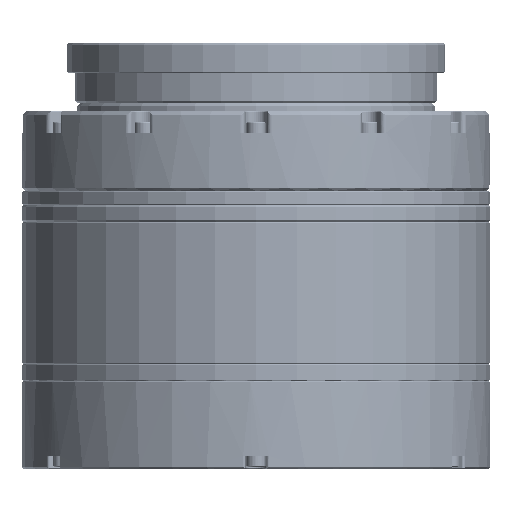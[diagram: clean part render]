
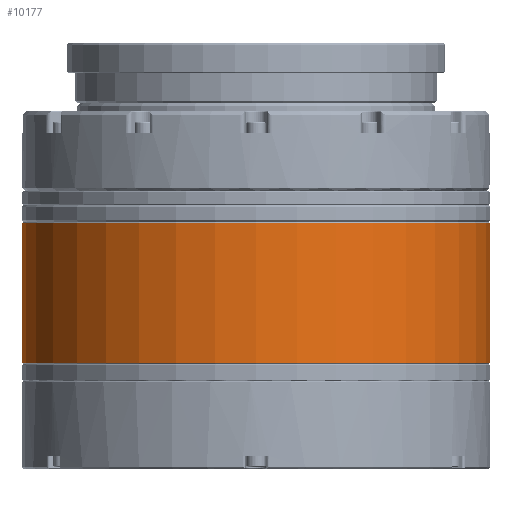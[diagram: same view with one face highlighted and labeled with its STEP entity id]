
A CAD part, front view. The second image highlights one B-rep face of the part: STEP entity #10177.
In plain terms, the highlighted cylindrical face has radius 55 mm (diameter 110 mm), a full revolution.
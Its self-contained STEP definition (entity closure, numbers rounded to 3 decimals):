
#7758=CYLINDRICAL_SURFACE('',#41553,55.);
#10177=ADVANCED_FACE('',(#13825,#13826),#7758,.T.);
#13825=FACE_BOUND('',#17722,.T.);
#13826=FACE_BOUND('',#17723,.T.);
#17722=EDGE_LOOP('',(#26100));
#17723=EDGE_LOOP('',(#26101));
#26100=ORIENTED_EDGE('',*,*,#34158,.T.);
#26101=ORIENTED_EDGE('',*,*,#34159,.T.);
#29819=VERTEX_POINT('',#66287);
#29820=VERTEX_POINT('',#66289);
#34158=EDGE_CURVE('',#29819,#29819,#36741,.T.);
#34159=EDGE_CURVE('',#29820,#29820,#36742,.T.);
#36741=CIRCLE('',#41551,55.);
#36742=CIRCLE('',#41552,55.);
#41551=AXIS2_PLACEMENT_3D('',#66286,#52581,#52582);
#41552=AXIS2_PLACEMENT_3D('',#66288,#52583,#52584);
#41553=AXIS2_PLACEMENT_3D('',#66290,#52585,#52586);
#52581=DIRECTION('',(0.,0.,1.));
#52582=DIRECTION('',(1.,0.,0.));
#52583=DIRECTION('',(0.,0.,-1.));
#52584=DIRECTION('',(-1.,0.,0.));
#52585=DIRECTION('',(0.,0.,1.));
#52586=DIRECTION('',(1.,0.,0.));
#66286=CARTESIAN_POINT('',(0.,0.,-33.35));
#66287=CARTESIAN_POINT('',(55.,0.,-33.35));
#66288=CARTESIAN_POINT('',(0.,0.,-0.55));
#66289=CARTESIAN_POINT('',(-55.,0.,-0.55));
#66290=CARTESIAN_POINT('',(0.,0.,-0.25));
